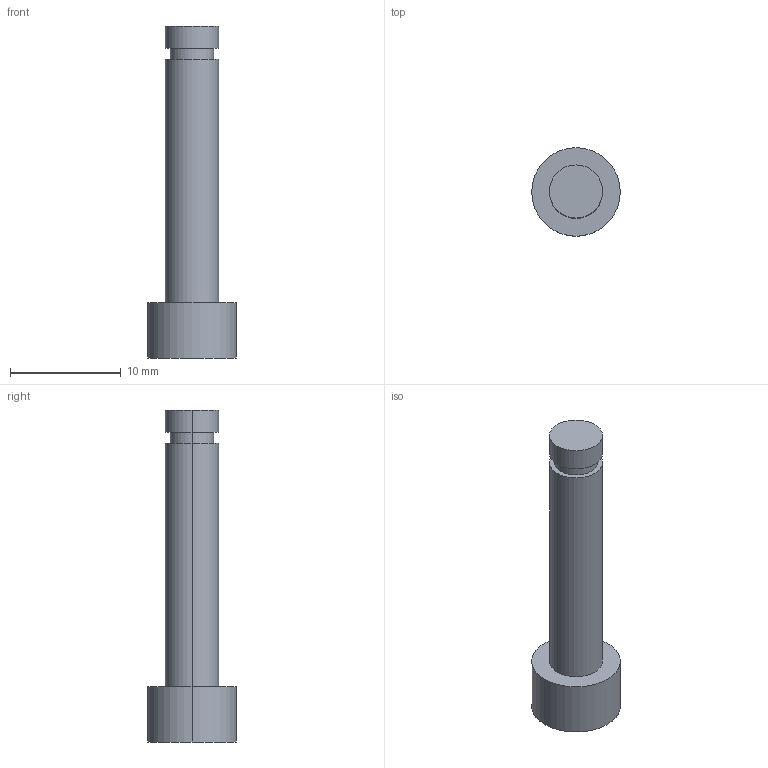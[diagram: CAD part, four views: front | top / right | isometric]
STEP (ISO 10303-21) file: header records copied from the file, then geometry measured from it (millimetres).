
FILE_DESCRIPTION(('CATIA V5 STEP Exchange'),'2;1');
FILE_NAME('C:\Users\hh\Desktop\2.0直通-三通插管治具图纸\TAT0010041-004.stp','2024-07-22T05:51:45+00:00',('none'),('none'),'CATIA Version 5 Release 21 GA (IN-10)','CATIA V5 STEP AP214','none');
FILE_SCHEMA(('AUTOMOTIVE_DESIGN { 1 0 10303 214 1 1 1 1 }'));
Length unit declared in the file: millimetre
Products named in the file (1): Part40
Bounding box: 8 x 8 x 30 mm (x, y, z)
Volume: 697.6 mm3; surface area: 612.7 mm2
Topology: 1 solids, 1 shells, 13 faces, 24 edges, 16 vertices
Faces by surface type: cylinder 8, plane 5
Entity records: 322 total; most frequent: CARTESIAN_POINT 50, ORIENTED_EDGE 48, DIRECTION 42, AXIS2_PLACEMENT_3D 26, EDGE_CURVE 24, CIRCLE 16, EDGE_LOOP 16, VERTEX_POINT 16
